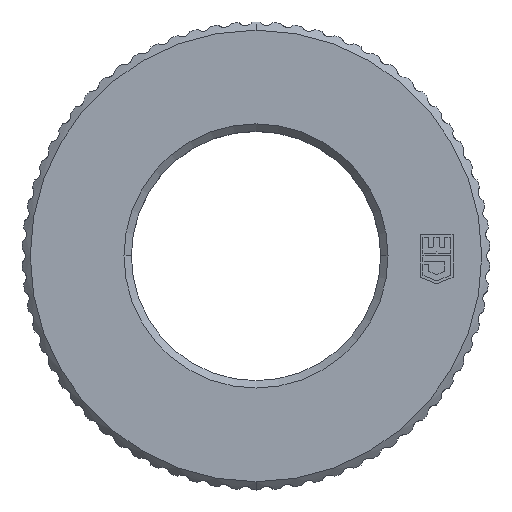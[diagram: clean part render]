
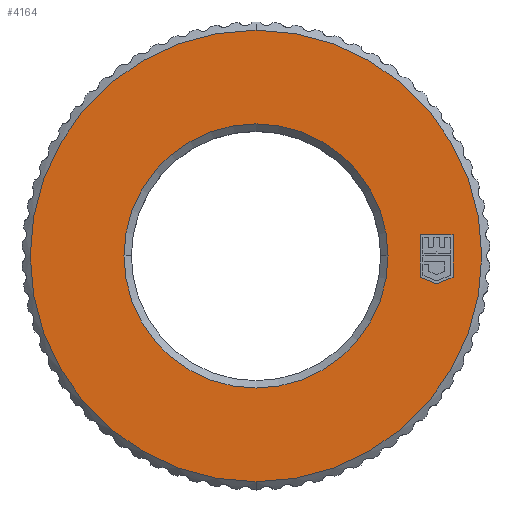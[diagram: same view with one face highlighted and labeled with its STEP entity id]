
A CAD part, top view. The second image highlights one B-rep face of the part: STEP entity #4164.
In plain terms, the highlighted planar face has unit normal (0, 0, 1).
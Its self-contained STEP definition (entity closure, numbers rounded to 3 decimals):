
#916 = DIRECTION ( 'NONE',  ( 0., 1., 0. ) ) ;
#917 = DIRECTION ( 'NONE',  ( 0., 0., -1. ) ) ;
#918 = CARTESIAN_POINT ( 'NONE',  ( 0., 0., 0. ) ) ;
#919 = AXIS2_PLACEMENT_3D ( 'NONE', #918, #917, #916 ) ;
#920 = PLANE ( 'NONE',  #919 ) ;
#921 = FACE_BOUND ( 'NONE', #4265, .T. ) ;
#922 = FACE_BOUND ( 'NONE', #4205, .T. ) ;
#923 = FACE_OUTER_BOUND ( 'NONE', #4169, .T. ) ;
#940 = CARTESIAN_POINT ( 'NONE',  ( 22., -3.41, 0. ) ) ;
#941 = CARTESIAN_POINT ( 'NONE',  ( 20., 2.59, 0. ) ) ;
#982 = DIRECTION ( 'NONE',  ( 0., -1., 0. ) ) ;
#983 = DIRECTION ( 'NONE',  ( 0., 0., 1. ) ) ;
#984 = CARTESIAN_POINT ( 'NONE',  ( 0., 0., 0. ) ) ;
#985 = AXIS2_PLACEMENT_3D ( 'NONE', #984, #983, #982 ) ;
#986 = CIRCLE ( 'NONE', #985, 27.5 ) ;
#1006 = CARTESIAN_POINT ( 'NONE',  ( 20., -2.582, 0. ) ) ;
#1007 = DIRECTION ( 'NONE',  ( -0.924, -0.383, 0. ) ) ;
#1008 = VECTOR ( 'NONE', #1007, 1000. ) ;
#1009 = CARTESIAN_POINT ( 'NONE',  ( 22., -3.41, 0. ) ) ;
#1010 = LINE ( 'NONE', #1009, #1008 ) ;
#1048 = CARTESIAN_POINT ( 'NONE',  ( 24., 2.59, 0. ) ) ;
#1085 = DIRECTION ( 'NONE',  ( 0., 1., 0. ) ) ;
#1086 = VECTOR ( 'NONE', #1085, 1000. ) ;
#1087 = CARTESIAN_POINT ( 'NONE',  ( 20., -2.582, 0. ) ) ;
#1088 = LINE ( 'NONE', #1087, #1086 ) ;
#1089 = CARTESIAN_POINT ( 'NONE',  ( 24., -2.582, 0. ) ) ;
#1090 = DIRECTION ( 'NONE',  ( 0., -1., 0. ) ) ;
#1091 = VECTOR ( 'NONE', #1090, 1000. ) ;
#1092 = CARTESIAN_POINT ( 'NONE',  ( 24., 2.59, 0. ) ) ;
#1093 = LINE ( 'NONE', #1092, #1091 ) ;
#1099 = DIRECTION ( 'NONE',  ( -0.924, 0.383, 0. ) ) ;
#1100 = VECTOR ( 'NONE', #1099, 1000. ) ;
#1101 = CARTESIAN_POINT ( 'NONE',  ( 22., -3.41, 0. ) ) ;
#1102 = LINE ( 'NONE', #1101, #1100 ) ;
#1103 = DIRECTION ( 'NONE',  ( 0., 1., 0. ) ) ;
#1104 = DIRECTION ( 'NONE',  ( 0., 0., -1. ) ) ;
#1105 = CARTESIAN_POINT ( 'NONE',  ( 0., 0., 0. ) ) ;
#1106 = AXIS2_PLACEMENT_3D ( 'NONE', #1105, #1104, #1103 ) ;
#1111 = CIRCLE ( 'NONE', #1106, 16.088 ) ;
#1131 = DIRECTION ( 'NONE',  ( 1., 0., 0. ) ) ;
#1132 = VECTOR ( 'NONE', #1131, 1000. ) ;
#1133 = CARTESIAN_POINT ( 'NONE',  ( 20., 2.59, 0. ) ) ;
#1139 = LINE ( 'NONE', #1133, #1132 ) ;
#1705 = VERTEX_POINT ( 'NONE', #6291 ) ;
#1707 = VERTEX_POINT ( 'NONE', #6289 ) ;
#1717 = EDGE_CURVE ( 'NONE', #1707, #1705, #6269, .T. ) ;
#3435 = CARTESIAN_POINT ( 'NONE',  ( 0., 27.5, 0. ) ) ;
#3452 = DIRECTION ( 'NONE',  ( 0., -1., 0. ) ) ;
#3453 = DIRECTION ( 'NONE',  ( 0., 0., 1. ) ) ;
#3454 = CARTESIAN_POINT ( 'NONE',  ( 0., 0., 0. ) ) ;
#3455 = AXIS2_PLACEMENT_3D ( 'NONE', #3454, #3453, #3452 ) ;
#3467 = CIRCLE ( 'NONE', #3455, 27.5 ) ;
#3486 = CARTESIAN_POINT ( 'NONE',  ( 0., -27.5, 0. ) ) ;
#4164 = ADVANCED_FACE ( 'NONE', ( #923, #922, #921 ), #920, .F. ) ;
#4169 = EDGE_LOOP ( 'NONE', ( #4204, #4208 ) ) ;
#4186 = VERTEX_POINT ( 'NONE', #941 ) ;
#4188 = VERTEX_POINT ( 'NONE', #940 ) ;
#4189 = ORIENTED_EDGE ( 'NONE', *, *, #4190, .T. ) ;
#4190 = EDGE_CURVE ( 'NONE', #4254, #4188, #1010, .T. ) ;
#4192 = VERTEX_POINT ( 'NONE', #1006 ) ;
#4204 = ORIENTED_EDGE ( 'NONE', *, *, #4207, .T. ) ;
#4205 = EDGE_LOOP ( 'NONE', ( #4206, #4241 ) ) ;
#4206 = ORIENTED_EDGE ( 'NONE', *, *, #1717, .T. ) ;
#4207 = EDGE_CURVE ( 'NONE', #7242, #7248, #986, .T. ) ;
#4208 = ORIENTED_EDGE ( 'NONE', *, *, #7232, .T. ) ;
#4241 = ORIENTED_EDGE ( 'NONE', *, *, #4247, .T. ) ;
#4243 = ORIENTED_EDGE ( 'NONE', *, *, #4263, .T. ) ;
#4244 = VERTEX_POINT ( 'NONE', #1048 ) ;
#4247 = EDGE_CURVE ( 'NONE', #1705, #1707, #1111, .T. ) ;
#4248 = EDGE_CURVE ( 'NONE', #4188, #4192, #1102, .T. ) ;
#4252 = ORIENTED_EDGE ( 'NONE', *, *, #4253, .T. ) ;
#4253 = EDGE_CURVE ( 'NONE', #4244, #4254, #1093, .T. ) ;
#4254 = VERTEX_POINT ( 'NONE', #1089 ) ;
#4255 = ORIENTED_EDGE ( 'NONE', *, *, #4248, .T. ) ;
#4256 = EDGE_CURVE ( 'NONE', #4192, #4186, #1088, .T. ) ;
#4263 = EDGE_CURVE ( 'NONE', #4186, #4244, #1139, .T. ) ;
#4265 = EDGE_LOOP ( 'NONE', ( #4255, #4269, #4243, #4252, #4189 ) ) ;
#4269 = ORIENTED_EDGE ( 'NONE', *, *, #4256, .T. ) ;
#6265 = DIRECTION ( 'NONE',  ( 0., 1., 0. ) ) ;
#6266 = DIRECTION ( 'NONE',  ( 0., 0., -1. ) ) ;
#6267 = CARTESIAN_POINT ( 'NONE',  ( 0., 0., 0. ) ) ;
#6268 = AXIS2_PLACEMENT_3D ( 'NONE', #6267, #6266, #6265 ) ;
#6269 = CIRCLE ( 'NONE', #6268, 16.088 ) ;
#6289 = CARTESIAN_POINT ( 'NONE',  ( 16.088, 0., 0. ) ) ;
#6291 = CARTESIAN_POINT ( 'NONE',  ( -16.088, 0., 0. ) ) ;
#7232 = EDGE_CURVE ( 'NONE', #7248, #7242, #3467, .T. ) ;
#7242 = VERTEX_POINT ( 'NONE', #3435 ) ;
#7248 = VERTEX_POINT ( 'NONE', #3486 ) ;
